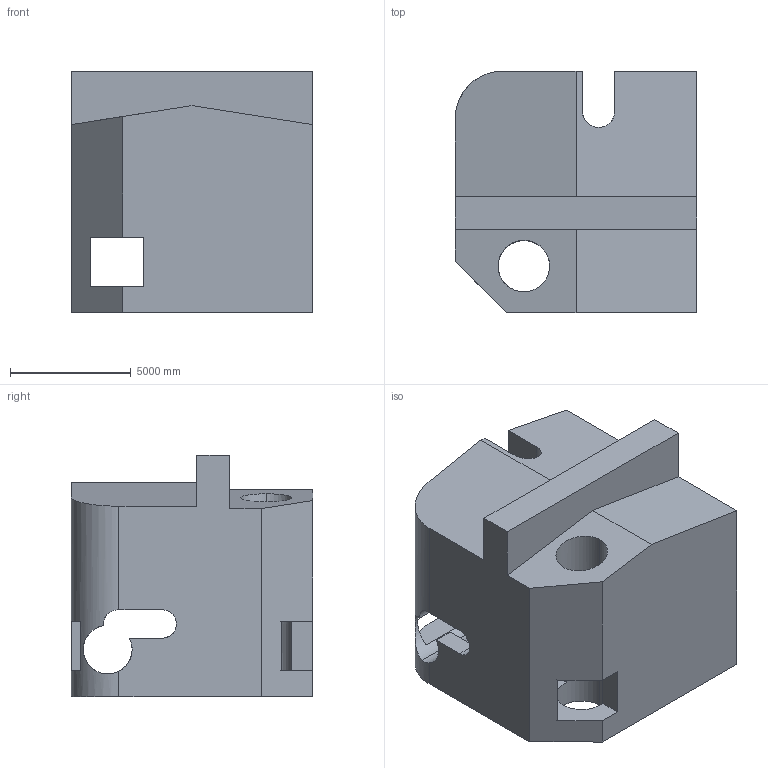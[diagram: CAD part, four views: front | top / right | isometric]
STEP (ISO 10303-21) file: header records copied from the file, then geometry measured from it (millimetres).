
FILE_DESCRIPTION (( 'STEP AP203' ), '1' );
FILE_NAME ('1935.STEP', '2022-08-23T09:40:32', ( 'user' ), ( '' ), 'SwSTEP 2.0', 'SolidWorks 2021', '' );
FILE_SCHEMA (( 'CONFIG_CONTROL_DESIGN' ));
Length unit declared in the file: centimetre
Products named in the file (1): 1935
Bounding box: 10000 x 10000 x 10000 mm (x, y, z)
Volume: 682728439498.7 mm3; surface area: 746523411.4 mm2
Topology: 1 solids, 1 shells, 43 faces, 147 edges, 98 vertices
Faces by surface type: plane 32, cylinder 11
Entity records: 2054 total; most frequent: CARTESIAN_POINT 673, ORIENTED_EDGE 294, DIRECTION 257, EDGE_CURVE 147, LINE 105, VECTOR 105, VERTEX_POINT 98, AXIS2_PLACEMENT_3D 76
